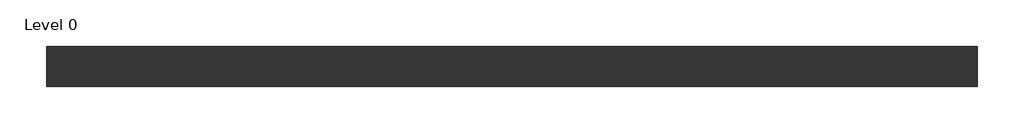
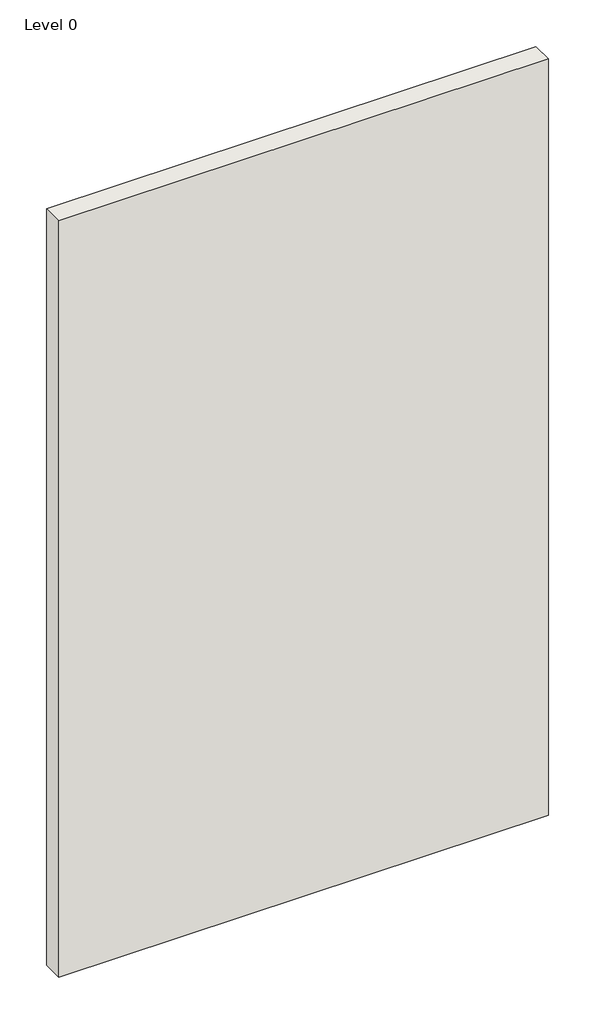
# One storey: 1 wall.
"""IFC4 building model written with IfcOpenShell, lengths in millimetres."""

import ifcopenshell
import ifcopenshell.guid

model = None  # the IFC model being written
_history = None  # IfcOwnerHistory: only IFC2X3 demands one
_inside = {}  # id of a spatial element -> (the spatial element, [elements in it])
_under = {}  # id of a project, library or spatial element -> (it, [spatial elements below it])
_declared = {}  # id of a project -> (the project, [libraries it declares])
_typed = {}  # id of a type object -> (the type object, [elements of that type])
_made_of = {}  # id of a material, layer set ... -> (it, [elements and type objects made of it])


def new_model(schema):
    """Start an empty IFC model of exactly this schema.

    Asked for "IFC4X3", IfcOpenShell would pick the latest addendum, in which some entities
    have other attributes; the version numbers below select the first issue.
    IFC2X3 requires an IfcOwnerHistory on every rooted entity: one is made here for all.
    """
    global model, _history
    if schema == "IFC4X3":
        model = ifcopenshell.file(schema_version=(4, 3, 0, 0))
    else:
        model = ifcopenshell.file(schema=schema)
    _inside.clear()
    _under.clear()
    _declared.clear()
    _typed.clear()
    _made_of.clear()
    _history = None
    if model.schema == "IFC2X3":
        org = make("IfcOrganization", Name="unknown")
        user = make(
            "IfcPersonAndOrganization",
            ThePerson=make("IfcPerson", FamilyName="unknown"),
            TheOrganization=org,
        )
        app = make(
            "IfcApplication",
            ApplicationDeveloper=org,
            Version="unknown",
            ApplicationFullName="unknown",
            ApplicationIdentifier="unknown",
        )
        _history = make(
            "IfcOwnerHistory",
            OwningUser=user,
            OwningApplication=app,
            ChangeAction="ADDED",
            CreationDate=0,
        )
    return model


def make(cls, **values):
    """One entity of the class cls with the attributes given. An attribute that is None is left unset."""
    return model.create_entity(
        cls, **{name: value for name, value in values.items() if value is not None}
    )


def rooted(cls, **values):
    """An entity with a GlobalId (a new one), such as an element, a storey or a relation."""
    return make(cls, GlobalId=ifcopenshell.guid.new(), OwnerHistory=_history, **values)


def si_unit(unit_type, name, prefix=None):
    """IfcSIUnit, for example si_unit("LENGTHUNIT", "METRE", prefix="MILLI")."""
    return make("IfcSIUnit", UnitType=unit_type, Prefix=prefix, Name=name)


def assignment(units):
    """IfcUnitAssignment: the units of a project."""
    return None if units is None else make("IfcUnitAssignment", Units=units)


def point(xyz):
    """IfcCartesianPoint."""
    return None if xyz is None else make("IfcCartesianPoint", Coordinates=xyz)


def direction(xyz):
    """IfcDirection."""
    return None if xyz is None else make("IfcDirection", DirectionRatios=xyz)


def frame(location, z_axis=None, x_axis=None):
    """IfcAxis2Placement3D, a coordinate frame: its origin and axes. An axis left out is left unset."""
    return make(
        "IfcAxis2Placement3D",
        Location=point(location),
        Axis=direction(z_axis),
        RefDirection=direction(x_axis),
    )


def origin():
    """The frame at (0, 0, 0) with its axes left unset."""
    return frame((0.0, 0.0, 0.0))


def origin_with_axes():
    """The frame at (0, 0, 0) with the z axis (0, 0, 1) and the x axis (1, 0, 0) written out."""
    return frame((0.0, 0.0, 0.0), z_axis=(0.0, 0.0, 1.0), x_axis=(1.0, 0.0, 0.0))


def place(relative_to, where):
    """IfcLocalPlacement: puts the frame where relative to a parent placement (None: the world)."""
    return make(
        "IfcLocalPlacement", PlacementRelTo=relative_to, RelativePlacement=where
    )


def context(
    kind, dimensions, precision=None, world=None, true_north=None, identifier=None
):
    """IfcGeometricRepresentationContext, for example the 3D "Model" context."""
    return make(
        "IfcGeometricRepresentationContext",
        ContextIdentifier=identifier,
        ContextType=kind,
        CoordinateSpaceDimension=dimensions,
        Precision=precision,
        WorldCoordinateSystem=world,
        TrueNorth=true_north,
    )


def project(units=None, contexts=None):
    """IfcProject with its units and contexts."""
    return rooted(
        "IfcProject",
        Name="project",
        RepresentationContexts=contexts,
        UnitsInContext=assignment(units),
    )


def spatial(cls, under=None, at=None, **own):
    """A site, building, storey or space (cls), placed at a placement, below another one or the project."""
    s = rooted(cls, ObjectPlacement=at, **own)
    if under is not None:
        _under.setdefault(under.id(), (under, []))[1].append(s)
    return s


def polyline(points):
    """IfcPolyline through the points."""
    return make("IfcPolyline", Points=[point(p) for p in points])


def outline(outer, holes=None, kind="AREA"):
    """IfcArbitraryClosedProfileDef: a profile drawn as a closed curve; with holes, ...WithVoids."""
    if holes is None:
        return make("IfcArbitraryClosedProfileDef", ProfileType=kind, OuterCurve=outer)
    return make(
        "IfcArbitraryProfileDefWithVoids",
        ProfileType=kind,
        OuterCurve=outer,
        InnerCurves=holes,
    )


def extrude(swept, where, along, depth):
    """IfcExtrudedAreaSolid: the profile swept, set in the frame where, extruded along a direction by depth."""
    return make(
        "IfcExtrudedAreaSolid",
        SweptArea=swept,
        Position=where,
        ExtrudedDirection=direction(along),
        Depth=depth,
    )


def shape(context_of_items, identifier, shape_type, items):
    """IfcShapeRepresentation: the items that make up one representation, for example the "Body"."""
    return make(
        "IfcShapeRepresentation",
        ContextOfItems=context_of_items,
        RepresentationIdentifier=identifier,
        RepresentationType=shape_type,
        Items=items,
    )


def made_of(thing, what):
    """Note that an element or type object is made of a material, layer set ...; save() writes the relation."""
    if what is not None:
        _made_of.setdefault(what.id(), (what, []))[1].append(thing)
    return thing


def element(
    cls,
    number,
    at=None,
    inside=None,
    cuts=None,
    type_object=None,
    material=None,
    context=None,
    identifier="Body",
    shape_type=None,
    held_by="IfcProductDefinitionShape",
    body=None,
    shapes=None,
    **own,
):
    """One element of the class cls, such as IfcWall. Its Tag is "e" and its number.

    at: its placement. inside: the storey or other place that contains it. cuts: it is an
    opening in that element (IfcRelVoidsElement). A single representation is given by context,
    identifier, shape_type and body (its items); several are given by shapes. held_by: the class
    of the entity that holds the representations. save() writes the other relations.
    """
    e = rooted(cls, Tag="e%d" % number, ObjectPlacement=at, **own)
    if body is not None:
        shapes = [shape(context, identifier, shape_type, body)]
    if shapes is not None:
        e.Representation = make(held_by, Representations=shapes)
    if inside is not None:
        _inside.setdefault(inside.id(), (inside, []))[1].append(e)
    if cuts is not None:
        rooted(
            "IfcRelVoidsElement", RelatingBuildingElement=cuts, RelatedOpeningElement=e
        )
    if type_object is not None:
        _typed.setdefault(type_object.id(), (type_object, []))[1].append(e)
    return made_of(e, material)


def aggregate(whole, parts):
    """IfcRelAggregates: a whole, such as a stair, and the parts it consists of."""
    return rooted("IfcRelAggregates", RelatingObject=whole, RelatedObjects=parts)


def save(model, path):
    """Write the relations noted so far, then the file.

    IfcRelAggregates (storeys below a building ...), IfcRelContainedInSpatialStructure (elements
    in a storey), IfcRelDefinesByType, IfcRelAssociatesMaterial and IfcRelDeclares: one each for
    every whole, place, type object, material and project.
    """
    for whole, parts in _under.values():
        aggregate(whole, parts)
    for where, things in _inside.values():
        rooted(
            "IfcRelContainedInSpatialStructure",
            RelatedElements=things,
            RelatingStructure=where,
        )
    for kind, things in _typed.values():
        rooted("IfcRelDefinesByType", RelatedObjects=things, RelatingType=kind)
    for what, things in _made_of.values():
        rooted("IfcRelAssociatesMaterial", RelatedObjects=things, RelatingMaterial=what)
    for by, libraries in _declared.values():
        rooted("IfcRelDeclares", RelatingContext=by, RelatedDefinitions=libraries)
    model.write(path)


model = new_model("IFC4")

# Units and contexts
model_context = context("Model", 3, world=origin())
ifc_project = project(units=[si_unit("LENGTHUNIT", "METRE", prefix="MILLI")], contexts=[model_context])

# Site, building, storey
site = spatial("IfcSite", under=ifc_project)
building = spatial("IfcBuilding", under=site)
storey = spatial("IfcBuildingStorey", under=building, Name="Level 0", Elevation=0.0)

# Wall
placement = place(None, origin())
element("IfcWall", 1, ObjectType="A206A288 - GypWall CLASSIC", at=placement, inside=storey, context=model_context, shape_type="SweptSolid", body=[
    extrude(outline(polyline([(2116.0807354, 528.7205641), (-883.9192646, 528.7205641), (-883.9192646, 658.7205641), (2116.0807354, 658.7205641), (2116.0807354, 528.7205641)])), origin_with_axes(), (0.0, 0.0, 1.0), 4900.0),
])

save(model, "model.ifc")
